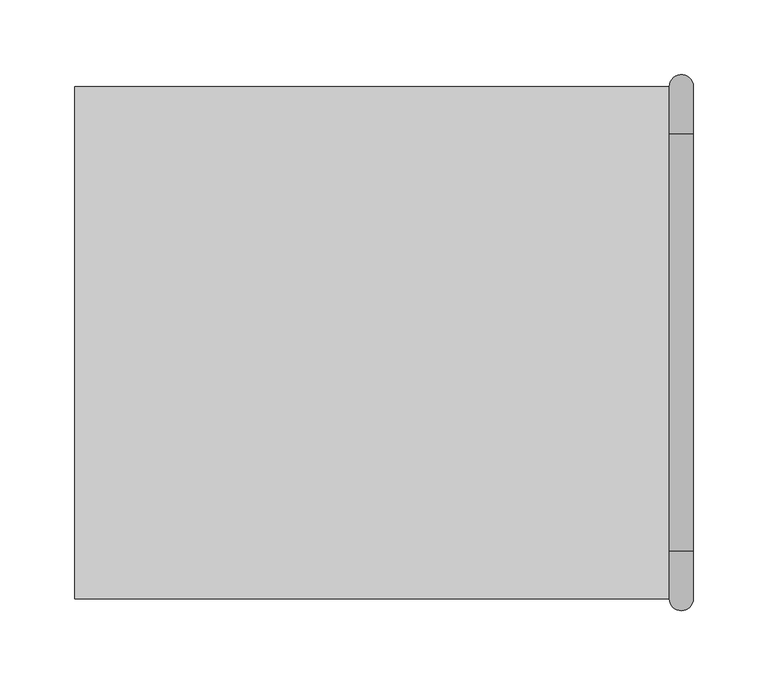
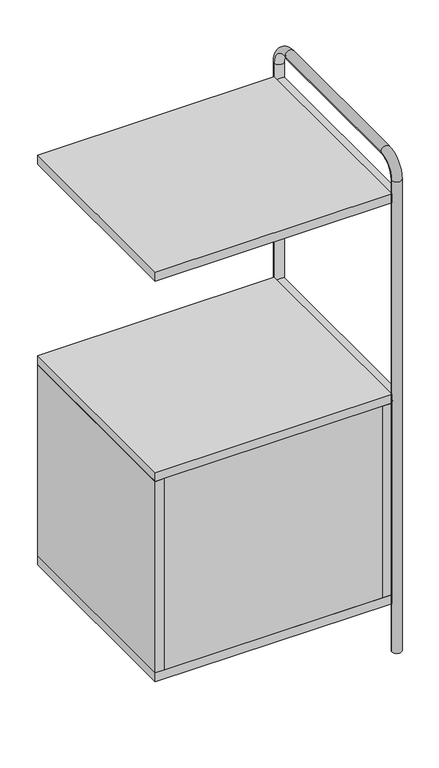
"""IFC4 building model written with IfcOpenShell, lengths in millimetres: furniture geometry, Tubbe Bookcase_Intermediate Unit_2x1 : Tubbe Bookcase_Intermediate Unit_2x1_3x2."""

from ifc_helpers import new_model, si_unit, point, frame, frame_2d, origin, place, context, project, spatial, polyline, circle_curve, ellipse_curve, trimmed, segment, composite_curve, outline, extrude, source, transform, mapped, element, save
from ifc_brep_helpers import plane_surface, cylinder_surface, revolved_surface, advanced_brep


def furniture_b87f857e(model_context):
    return source(origin(), model_context, "Body", "SolidModel", [
        extrude(outline(polyline([(183.0, -171.5), (-183.0, -171.5), (-183.0, -155.5), (183.0, -155.5), (183.0, -171.5)])), frame((0.0, 0.0, 102.0), z_axis=(0.0, 0.0, 1.0), x_axis=(1.0, 0.0, 0.0)), (0.0, 0.0, 1.0), 340.0),
        extrude(outline(polyline([(183.0, 155.5), (-183.0, 155.5), (-183.0, 171.5), (183.0, 171.5), (183.0, 155.5)])), frame((0.0, 0.0, 102.0), z_axis=(0.0, 0.0, 1.0), x_axis=(1.0, 0.0, 0.0)), (0.0, 0.0, 1.0), 340.0),
        extrude(outline(polyline([(199.0, 171.5), (199.0, -171.5), (183.0, -171.5), (183.0, 171.5), (199.0, 171.5)])), frame((0.0, 0.0, 102.0), z_axis=(0.0, 0.0, 1.0), x_axis=(1.0, 0.0, 0.0)), (0.0, 0.0, 1.0), 340.0),
        extrude(outline(polyline([(-183.0, 171.5), (-183.0, -171.5), (-199.0, -171.5), (-199.0, 171.5), (-183.0, 171.5)])), frame((0.0, 0.0, 102.0), z_axis=(0.0, 0.0, 1.0), x_axis=(1.0, 0.0, 0.0)), (0.0, 0.0, 1.0), 340.0),
        extrude(outline(polyline([(199.0, 171.5), (199.0, -171.5), (-199.0, -171.5), (-199.0, 171.5), (199.0, 171.5)])), frame((0.0, 0.0, 798.0), z_axis=(0.0, 0.0, 1.0), x_axis=(1.0, 0.0, 0.0)), (0.0, 0.0, 1.0), 16.0),
        extrude(outline(polyline([(199.0, 171.5), (199.0, -171.5), (-199.0, -171.5), (-199.0, 171.5), (199.0, 171.5)])), frame((0.0, 0.0, 442.0), z_axis=(0.0, 0.0, 1.0), x_axis=(1.0, 0.0, 0.0)), (0.0, 0.0, 1.0), 16.0),
        extrude(outline(polyline([(199.0, 171.5), (199.0, -171.5), (-199.0, -171.5), (-199.0, 171.5), (199.0, 171.5)])), frame((0.0, 0.0, 86.0), z_axis=(0.0, 0.0, 1.0), x_axis=(1.0, 0.0, 0.0)), (0.0, 0.0, 1.0), 16.0),
        extrude(outline(composite_curve([segment(trimmed(circle_curve(frame_2d((806.0, 207.0)), 8.0), [point((806.0, 199.0))], [point((806.0, 215.0))], False, "CARTESIAN"), True, "CONTINUOUS"), segment(trimmed(circle_curve(frame_2d((806.0, 207.0)), 8.0), [point((806.0, 215.0))], [point((806.0, 199.0))], False, "CARTESIAN"), True, "CONTINUOUS")], self_intersect=False)), frame((0.0, -171.5, 0.0), z_axis=(0.0, 1.0, 0.0), x_axis=(0.0, 0.0, 1.0)), (0.0, 0.0, 1.0), 343.0),
        extrude(outline(composite_curve([segment(trimmed(circle_curve(frame_2d((450.0, 207.0)), 8.0), [point((450.0, 199.0))], [point((450.0, 215.0))], False, "CARTESIAN"), True, "CONTINUOUS"), segment(trimmed(circle_curve(frame_2d((450.0, 207.0)), 8.0), [point((450.0, 215.0))], [point((450.0, 199.0))], False, "CARTESIAN"), True, "CONTINUOUS")], self_intersect=False)), frame((0.0, -171.5, 0.0), z_axis=(0.0, 1.0, 0.0), x_axis=(0.0, 0.0, 1.0)), (0.0, 0.0, 1.0), 343.0),
        extrude(outline(composite_curve([segment(trimmed(circle_curve(frame_2d((94.0, 207.0)), 8.0), [point((94.0, 199.0))], [point((94.0, 215.0))], False, "CARTESIAN"), True, "CONTINUOUS"), segment(trimmed(circle_curve(frame_2d((94.0, 207.0)), 8.0), [point((94.0, 215.0))], [point((94.0, 199.0))], False, "CARTESIAN"), True, "CONTINUOUS")], self_intersect=False)), frame((0.0, -171.5, 0.0), z_axis=(0.0, 1.0, 0.0), x_axis=(0.0, 0.0, 1.0)), (0.0, 0.0, 1.0), 343.0),
        advanced_brep(
        [(199.0, 171.5, 0.0), (215.0, 171.5, 0.0), (199.0, 171.5, 838.0), (215.0, 171.5, 838.0), (215.0, 139.5, 870.0), (199.0, 139.5, 870.0), (199.0, -139.5, 870.0), (215.0, -139.5, 870.0), (215.0, -171.5, 838.0), (199.0, -171.5, 838.0), (199.0, -171.5, 0.0), (215.0, -171.5, 0.0)],
        [
            (0, 1, circle_curve(frame((207.0, 171.5, 0.0), z_axis=(0.0, 0.0, -1.0), x_axis=(1.0, 0.0, 0.0)), 8.0)),
            (1, 0, circle_curve(frame((207.0, 171.5, 0.0), z_axis=(0.0, 0.0, -1.0), x_axis=(1.0, 0.0, 0.0)), 8.0)),
            (0, 2),
            (2, 3, circle_curve(frame((207.0, 171.5, 838.0), z_axis=(0.0, 0.0, -1.0), x_axis=(1.0, 0.0, 0.0)), 8.0)),
            (3, 1),
            (3, 2, circle_curve(frame((207.0, 171.5, 838.0), z_axis=(0.0, 0.0, -1.0), x_axis=(1.0, 0.0, 0.0)), 8.0)),
            (4, 5, circle_curve(frame((207.0, 139.5, 870.0), z_axis=(0.0, -1.0, 0.0), x_axis=(1.0, 0.0, 0.0)), 8.0)),
            (5, 6),
            (6, 7, circle_curve(frame((207.0, -139.5, 870.0), z_axis=(0.0, 1.0, 0.0), x_axis=(1.0, 0.0, 0.0)), 8.0)),
            (7, 4),
            (5, 4, circle_curve(frame((207.0, 139.5, 870.0), z_axis=(0.0, -1.0, 0.0), x_axis=(1.0, 0.0, 0.0)), 8.0)),
            (7, 6, circle_curve(frame((207.0, -139.5, 870.0), z_axis=(0.0, 1.0, 0.0), x_axis=(1.0, 0.0, 0.0)), 8.0)),
            (8, 7, circle_curve(frame((215.0, -139.5, 838.0), z_axis=(-1.0, 0.0, 0.0), x_axis=(0.0, 0.0, 1.0)), 32.0)),
            (6, 9, circle_curve(frame((199.0, -139.5, 838.0), z_axis=(1.0, 0.0, 0.0), x_axis=(0.0, 0.0, 1.0)), 32.0)),
            (9, 8, circle_curve(frame((207.0, -171.5, 838.0), z_axis=(0.0, 0.0, 1.0), x_axis=(1.0, 0.0, 0.0)), 8.0)),
            (8, 9, circle_curve(frame((207.0, -171.5, 838.0), z_axis=(0.0, 0.0, 1.0), x_axis=(1.0, 0.0, 0.0)), 8.0)),
            (10, 11, circle_curve(frame((207.0, -171.5, 0.0), z_axis=(0.0, 0.0, -1.0), x_axis=(1.0, 0.0, 0.0)), 8.0)),
            (11, 10, circle_curve(frame((207.0, -171.5, 0.0), z_axis=(0.0, 0.0, -1.0), x_axis=(1.0, 0.0, 0.0)), 8.0)),
            (9, 10),
            (11, 8),
            (4, 3, circle_curve(frame((215.0, 139.5, 838.0), z_axis=(-1.0, 0.0, 0.0), x_axis=(0.0, 1.0, 0.0)), 32.0)),
            (2, 5, circle_curve(frame((199.0, 139.5, 838.0), z_axis=(1.0, 0.0, 0.0), x_axis=(0.0, 1.0, 0.0)), 32.0)),
        ],
        [
            plane_surface(frame((207.0, 171.5, 0.0), z_axis=(0.0, 0.0, -1.0), x_axis=(1.0, 0.0, 0.0))),
            cylinder_surface(frame((207.0, 171.5, 0.0), z_axis=(0.0, 0.0, -1.0), x_axis=(1.0, 0.0, 0.0)), 8.0),
            cylinder_surface(frame((207.0, 139.5, 870.0), z_axis=(0.0, 1.0, 0.0), x_axis=(1.0, 0.0, 0.0)), 8.0),
            revolved_surface(trimmed(ellipse_curve(frame((207.0, -139.5, 870.0), z_axis=(0.0, 1.0, 0.0), x_axis=(1.0, 0.0, 0.0)), 8.0, 8.0), [point((199.0, -139.5, 870.0))], [point((215.0, -139.5, 870.0))], True, "CARTESIAN"), (207.0, -139.5, 838.0), (1.0, 0.0, 0.0)),
            revolved_surface(trimmed(ellipse_curve(frame((207.0, -139.5, 870.0), z_axis=(0.0, 1.0, 0.0), x_axis=(1.0, 0.0, 0.0)), 8.0, 8.0), [point((215.0, -139.5, 870.0))], [point((199.0, -139.5, 870.0))], True, "CARTESIAN"), (207.0, -139.5, 838.0), (1.0, 0.0, 0.0)),
            plane_surface(frame((207.0, -171.5, 0.0), z_axis=(0.0, 0.0, -1.0), x_axis=(1.0, 0.0, 0.0))),
            cylinder_surface(frame((207.0, -171.5, 838.0), z_axis=(0.0, 0.0, 1.0), x_axis=(1.0, 0.0, 0.0)), 8.0),
            revolved_surface(trimmed(ellipse_curve(frame((207.0, 171.5, 838.0), z_axis=(0.0, 0.0, -1.0), x_axis=(1.0, 0.0, 0.0)), 8.0, 8.0), [point((199.0, 171.5, 838.0))], [point((215.0, 171.5, 838.0))], True, "CARTESIAN"), (207.0, 139.5, 838.0), (1.0, 0.0, 0.0)),
            revolved_surface(trimmed(ellipse_curve(frame((207.0, 171.5, 838.0), z_axis=(0.0, 0.0, -1.0), x_axis=(1.0, 0.0, 0.0)), 8.0, 8.0), [point((215.0, 171.5, 838.0))], [point((199.0, 171.5, 838.0))], True, "CARTESIAN"), (207.0, 139.5, 838.0), (1.0, 0.0, 0.0)),
        ],
        [
            (0, [[1, 2]]),
            (1, [[-1, 3, 4, 5]]),
            (1, [[-2, -5, 6, -3]]),
            (2, [[7, 8, 9, 10]]),
            (2, [[11, -10, 12, -8]]),
            (3, [[13, -9, 14, 15]]),
            (4, [[-14, -12, -13, 16]]),
            (5, [[17, 18]]),
            (6, [[-15, 19, -18, 20]]),
            (6, [[-16, -20, -17, -19]]),
            (7, [[21, -4, 22, -7]]),
            (8, [[-22, -6, -21, -11]]),
        ],
    ),
    ])


if __name__ == "__main__":
    model = new_model("IFC4")
    model_context = context("Model", 3, world=origin())
    ifc_project = project(units=[si_unit("LENGTHUNIT", "METRE", prefix="MILLI")], contexts=[model_context])
    site = spatial("IfcSite", under=ifc_project)
    building = spatial("IfcBuilding", under=site)
    placement = place(None, origin())
    furniture_shape = furniture_b87f857e(model_context)
    element("IfcFurniture", 1, ObjectType="Tubbe Bookcase_Intermediate Unit_2x1 : Tubbe Bookcase_Intermediate Unit_2x1_3x2", at=placement, inside=building, context=model_context, shape_type="MappedRepresentation", body=[
        mapped(furniture_shape, transform((0.0, 0.0, 0.0), x_axis=(1.0, 0.0, 0.0), y_axis=(0.0, 1.0, 0.0), z_axis=(0.0, 0.0, 1.0))),
    ])
    save(model, "model.ifc")
